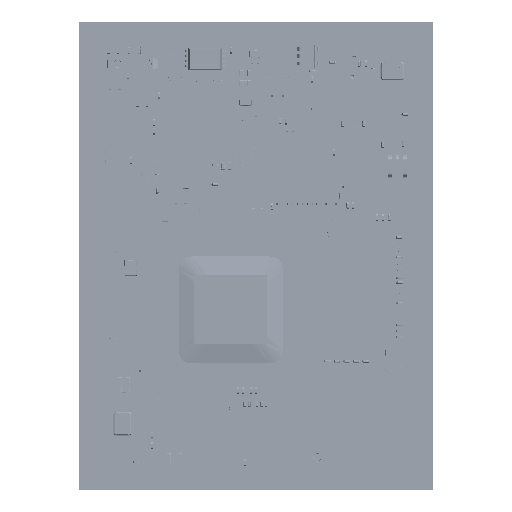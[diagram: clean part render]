
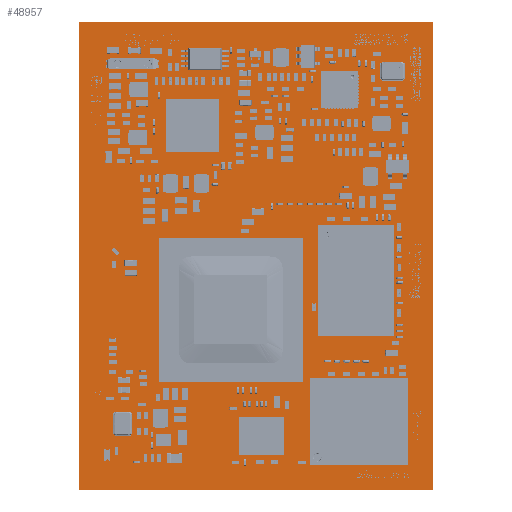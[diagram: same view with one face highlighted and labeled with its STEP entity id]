
A CAD part, top view. The second image highlights one B-rep face of the part: STEP entity #48957.
In plain terms, the highlighted planar face has unit normal (0, 0, 1).
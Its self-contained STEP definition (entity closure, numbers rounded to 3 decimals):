
#35309=FACE_OUTER_BOUND($,#38813,.F.);
#38813=EDGE_LOOP($,(#52495,#52496,#52497,#52498));
#42390=AXIS2_PLACEMENT_3D($,#97346,#84049,$);
#48039=PLANE($,#42390);
#48957=ADVANCED_FACE($,(#35309),#48039,.T.);
#52495=ORIENTED_EDGE($,*,*,#65123,.T.);
#52496=ORIENTED_EDGE($,*,*,#65124,.T.);
#52497=ORIENTED_EDGE($,*,*,#65125,.T.);
#52498=ORIENTED_EDGE($,*,*,#65126,.T.);
#65123=EDGE_CURVE($,#77036,#77037,#74241,.T.);
#65124=EDGE_CURVE($,#77037,#77038,#74242,.T.);
#65125=EDGE_CURVE($,#77038,#77039,#74243,.T.);
#65126=EDGE_CURVE($,#77039,#77036,#74244,.T.);
#71449=VECTOR($,#84075,46.725);
#71450=VECTOR($,#84076,61.765);
#71451=VECTOR($,#84077,46.725);
#71452=VECTOR($,#84078,61.765);
#74241=LINE($,#97345,#71449);
#74242=LINE($,#97346,#71450);
#74243=LINE($,#97347,#71451);
#74244=LINE($,#97348,#71452);
#77036=VERTEX_POINT($,#97345);
#77037=VERTEX_POINT($,#97346);
#77038=VERTEX_POINT($,#97347);
#77039=VERTEX_POINT($,#97348);
#84049=DIRECTION($,(0.,0.,1.));
#84075=DIRECTION($,(1.,0.,0.));
#84076=DIRECTION($,(0.,-1.,0.));
#84077=DIRECTION($,(-1.,0.,0.));
#84078=DIRECTION($,(0.,1.,0.));
#97345=CARTESIAN_POINT('',(-0.84,60.879,0.001));
#97346=CARTESIAN_POINT('',(45.885,60.879,0.001));
#97347=CARTESIAN_POINT('',(45.885,-0.886,0.001));
#97348=CARTESIAN_POINT('',(-0.84,-0.886,0.001));
